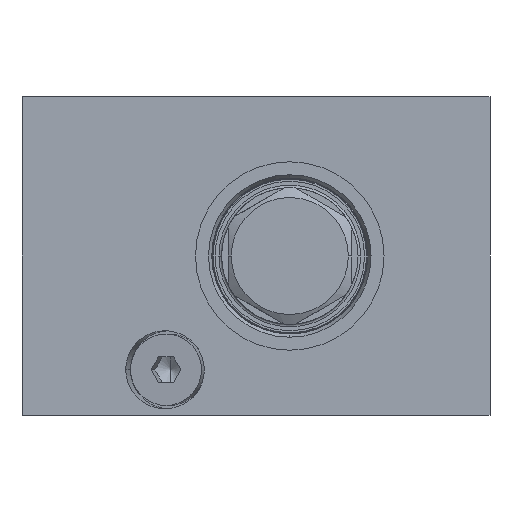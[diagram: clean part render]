
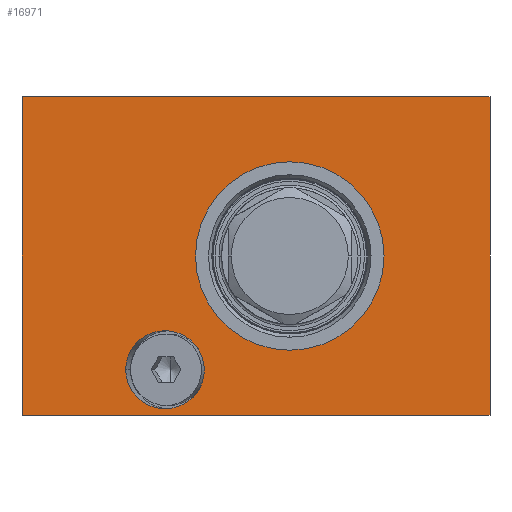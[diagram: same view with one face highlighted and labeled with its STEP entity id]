
A CAD part, left-side view. The second image highlights one B-rep face of the part: STEP entity #16971.
In plain terms, the highlighted planar face has unit normal (-1, 0, 0).
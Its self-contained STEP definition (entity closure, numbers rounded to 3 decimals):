
#296 = VECTOR ( 'NONE', #20864, 1000. ) ;
#887 = DIRECTION ( 'NONE',  ( 0., -1., 0. ) ) ;
#1742 = CARTESIAN_POINT ( 'NONE',  ( -49., 20.045, -29.5 ) ) ;
#2721 = CARTESIAN_POINT ( 'NONE',  ( -49., -36., -24.5 ) ) ;
#3287 = LINE ( 'NONE', #14982, #31523 ) ;
#3746 = CARTESIAN_POINT ( 'NONE',  ( -49., 36., -24.5 ) ) ;
#4212 = CARTESIAN_POINT ( 'NONE',  ( -49., 36., 24.5 ) ) ;
#4459 = DIRECTION ( 'NONE',  ( 1., 0., 0. ) ) ;
#4921 = CARTESIAN_POINT ( 'NONE',  ( -49., 7.955, -5.5 ) ) ;
#4938 = AXIS2_PLACEMENT_3D ( 'NONE', #37287, #20037, #36724 ) ;
#5435 = ORIENTED_EDGE ( 'NONE', *, *, #19802, .F. ) ;
#5546 = PLANE ( 'NONE',  #29591 ) ;
#6689 = EDGE_CURVE ( 'NONE', #34217, #8627, #9668, .T. ) ;
#7225 = CARTESIAN_POINT ( 'NONE',  ( -49., 7.955, -17.5 ) ) ;
#8064 = FACE_BOUND ( 'NONE', #15357, .T. ) ;
#8379 = CARTESIAN_POINT ( 'NONE',  ( -49., 20.045, -17.5 ) ) ;
#8627 = VERTEX_POINT ( 'NONE', #2721 ) ;
#8885 = EDGE_CURVE ( 'NONE', #11484, #21571, #3287, .T. ) ;
#9668 = LINE ( 'NONE', #3746, #30203 ) ;
#10309 = VERTEX_POINT ( 'NONE', #11877 ) ;
#11248 = ORIENTED_EDGE ( 'NONE', *, *, #27304, .F. ) ;
#11281 = EDGE_LOOP ( 'NONE', ( #5435, #35069 ) ) ;
#11484 = VERTEX_POINT ( 'NONE', #4212 ) ;
#11681 =( BOUNDED_CURVE ( )  B_SPLINE_CURVE ( 3, ( #28751, #1742, #13995, #16488 ),
 .UNSPECIFIED., .F., .F. ) 
 B_SPLINE_CURVE_WITH_KNOTS ( ( 4, 4 ),
 ( 0., 3.142 ),
 .UNSPECIFIED. ) 
 CURVE ( )  GEOMETRIC_REPRESENTATION_ITEM ( )  RATIONAL_B_SPLINE_CURVE ( ( 1., 0.333, 0.333, 1. ) ) 
 REPRESENTATION_ITEM ( '' )  );
#11844 = EDGE_LOOP ( 'NONE', ( #35147, #22519, #11248, #13947 ) ) ;
#11877 = CARTESIAN_POINT ( 'NONE',  ( -49., -5.2, 14.5 ) ) ;
#12419 = CARTESIAN_POINT ( 'NONE',  ( -49., 36., 24.5 ) ) ;
#12799 = LINE ( 'NONE', #12419, #296 ) ;
#13427 = CARTESIAN_POINT ( 'NONE',  ( -49., 36., -24.5 ) ) ;
#13947 = ORIENTED_EDGE ( 'NONE', *, *, #6689, .T. ) ;
#13995 = CARTESIAN_POINT ( 'NONE',  ( -49., 7.955, -29.5 ) ) ;
#14268 = AXIS2_PLACEMENT_3D ( 'NONE', #30341, #4459, #15958 ) ;
#14668 = VECTOR ( 'NONE', #34137, 1000. ) ;
#14982 = CARTESIAN_POINT ( 'NONE',  ( -49., 36., 24.5 ) ) ;
#15357 = EDGE_LOOP ( 'NONE', ( #21908, #21296 ) ) ;
#15958 = DIRECTION ( 'NONE',  ( 0., 0., -1. ) ) ;
#16114 = CARTESIAN_POINT ( 'NONE',  ( -49., -36., 24.5 ) ) ;
#16444 = EDGE_CURVE ( 'NONE', #10309, #19471, #17933, .T. ) ;
#16488 = CARTESIAN_POINT ( 'NONE',  ( -49., 7.955, -17.5 ) ) ;
#16686 = DIRECTION ( 'NONE',  ( 0., 0., -1. ) ) ;
#16971 = ADVANCED_FACE ( 'NONE', ( #25512, #8064, #37560 ), #5546, .F. ) ;
#17933 = CIRCLE ( 'NONE', #14268, 14.5 ) ;
#18919 = CARTESIAN_POINT ( 'NONE',  ( -49., 20.045, -5.5 ) ) ;
#19471 = VERTEX_POINT ( 'NONE', #21466 ) ;
#19802 = EDGE_CURVE ( 'NONE', #25316, #37811, #23237, .T. ) ;
#20037 = DIRECTION ( 'NONE',  ( 1., 0., 0. ) ) ;
#20864 = DIRECTION ( 'NONE',  ( 0., 0., 1. ) ) ;
#21296 = ORIENTED_EDGE ( 'NONE', *, *, #16444, .T. ) ;
#21466 = CARTESIAN_POINT ( 'NONE',  ( -49., -5.2, -14.5 ) ) ;
#21571 = VERTEX_POINT ( 'NONE', #16114 ) ;
#21908 = ORIENTED_EDGE ( 'NONE', *, *, #34934, .T. ) ;
#22454 = CARTESIAN_POINT ( 'NONE',  ( -49., -36., 24.5 ) ) ;
#22519 = ORIENTED_EDGE ( 'NONE', *, *, #8885, .F. ) ;
#22740 = EDGE_CURVE ( 'NONE', #37811, #25316, #11681, .T. ) ;
#23237 =( BOUNDED_CURVE ( )  B_SPLINE_CURVE ( 3, ( #7225, #4921, #18919, #30996 ),
 .UNSPECIFIED., .F., .F. ) 
 B_SPLINE_CURVE_WITH_KNOTS ( ( 4, 4 ),
 ( 3.142, 6.283 ),
 .UNSPECIFIED. ) 
 CURVE ( )  GEOMETRIC_REPRESENTATION_ITEM ( )  RATIONAL_B_SPLINE_CURVE ( ( 1., 0.333, 0.333, 1. ) ) 
 REPRESENTATION_ITEM ( '' )  );
#23374 = DIRECTION ( 'NONE',  ( 1., 0., 0. ) ) ;
#25316 = VERTEX_POINT ( 'NONE', #27637 ) ;
#25512 = FACE_OUTER_BOUND ( 'NONE', #11844, .T. ) ;
#26694 = DIRECTION ( 'NONE',  ( 0., -1., 0. ) ) ;
#27304 = EDGE_CURVE ( 'NONE', #34217, #11484, #12799, .T. ) ;
#27637 = CARTESIAN_POINT ( 'NONE',  ( -49., 7.955, -17.5 ) ) ;
#28207 = CIRCLE ( 'NONE', #4938, 14.5 ) ;
#28751 = CARTESIAN_POINT ( 'NONE',  ( -49., 20.045, -17.5 ) ) ;
#29591 = AXIS2_PLACEMENT_3D ( 'NONE', #34699, #23374, #16686 ) ;
#30203 = VECTOR ( 'NONE', #887, 1000. ) ;
#30341 = CARTESIAN_POINT ( 'NONE',  ( -49., -5.2, 0. ) ) ;
#30996 = CARTESIAN_POINT ( 'NONE',  ( -49., 20.045, -17.5 ) ) ;
#31523 = VECTOR ( 'NONE', #26694, 1000. ) ;
#31640 = LINE ( 'NONE', #22454, #14668 ) ;
#34137 = DIRECTION ( 'NONE',  ( 0., 0., 1. ) ) ;
#34217 = VERTEX_POINT ( 'NONE', #13427 ) ;
#34298 = EDGE_CURVE ( 'NONE', #8627, #21571, #31640, .T. ) ;
#34699 = CARTESIAN_POINT ( 'NONE',  ( -49., 36., 24.5 ) ) ;
#34934 = EDGE_CURVE ( 'NONE', #19471, #10309, #28207, .T. ) ;
#35069 = ORIENTED_EDGE ( 'NONE', *, *, #22740, .F. ) ;
#35147 = ORIENTED_EDGE ( 'NONE', *, *, #34298, .T. ) ;
#36724 = DIRECTION ( 'NONE',  ( 0., 0., -1. ) ) ;
#37287 = CARTESIAN_POINT ( 'NONE',  ( -49., -5.2, 0. ) ) ;
#37560 = FACE_BOUND ( 'NONE', #11281, .T. ) ;
#37811 = VERTEX_POINT ( 'NONE', #8379 ) ;
